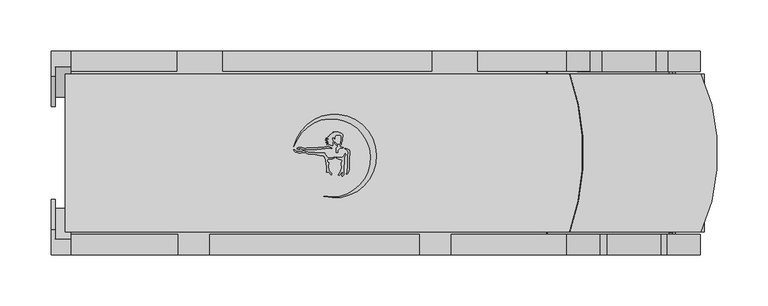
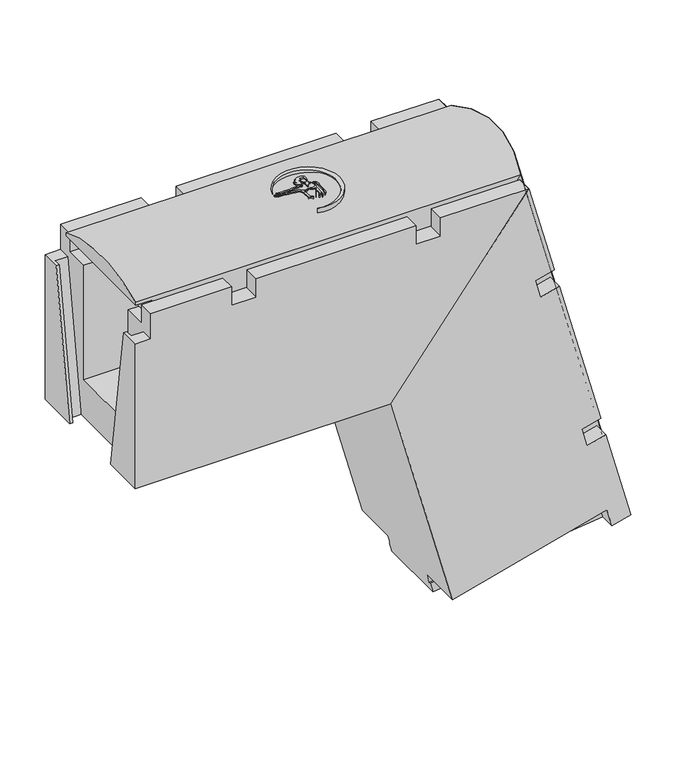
"""IFC4 building model written with IfcOpenShell, lengths in millimetres: cable carrier fitting geometry, Evotray type 1 vertical bend down : Evotray type 1 vertical bend down."""

from ifc_helpers import new_model, si_unit, point, frame, frame_2d, origin, place, context, project, spatial, polyline, circle_curve, ellipse_curve, trimmed, segment, composite_curve, outline, extrude, faceted_brep, source, transform, mapped, element, save
from ifc_brep_helpers import plane_surface, cylinder_surface, advanced_brep


def cable_carrier_fitting_f9ec4222(model_context):
    return source(origin(), model_context, "Body", "SolidModel", [
        extrude(outline(composite_curve([segment(polyline([(-100.1987673, 5.907559), (-98.7730763, 5.0844359), (-99.4820077, 4.6751342), (-102.0469375, 4.6751342), (-104.5064308, 2.2156409), (-104.5064308, 0.6319729), (-105.5639447, 0.3486129), (-105.8953119, 1.5852919), (-105.5730905, 2.7878385), (-105.5730905, 5.0146536), (-104.1065498, 6.4811943), (-104.5064308, 7.1738084), (-105.5730905, 7.7896447), (-106.4313624, 8.2851682), (-107.4244859, 9.2782918), (-107.4244859, 10.5283487), (-106.6366917, 10.0735155), (-105.5730905, 9.0099142), (-104.5064308, 8.394078), (-102.1936661, 8.394078), (-101.5617675, 9.0259766), (-101.5617675, 10.6343813), (-101.1559104, 11.3373462), (-100.9163405, 12.2314336), (-100.9163405, 16.3268685), (-101.5617675, 16.9722955), (-105.5730905, 17.3232408), (-106.3212546, 16.8912881), (-106.7531031, 16.1433045), (-106.9754965, 15.313321), (-107.2482129, 13.7666695), (-107.8042347, 14.3226912), (-108.3698905, 14.8883471), (-109.3304254, 14.8883471), (-109.8048648, 14.0665939), (-109.8048648, 13.2416885), (-109.4028177, 12.5453225), (-108.675123, 11.8176278), (-109.0717623, 10.3373496), (-109.4092623, 9.0777826), (-109.1064549, 7.3604762), (-109.907248, 7.2192748), (-111.6376932, 7.6829462), (-112.8844025, 8.2642963), (-113.6376597, 8.6155459), (-115.2371082, 8.33352), (-114.7695498, 9.1433549), (-113.1127288, 9.7463885)]), True, "CONTINUOUS"), segment(trimmed(circle_curve(frame_2d((-113.6788564, 9.4744491)), 0.6280537), [point((-113.1127288, 9.7463885))], [point((-113.8344386, 10.0829273))], True, "CARTESIAN"), True, "CONTINUOUS"), segment(polyline([(-113.8344386, 10.0829273), (-115.7814537, 10.0829273), (-115.2232755, 10.6411054), (-114.3724958, 10.9507639), (-113.5540563, 11.2486515)]), True, "CONTINUOUS"), segment(trimmed(circle_curve(frame_2d((-114.2923812, 11.2486515)), 0.7383249), [point((-113.5540563, 11.2486515))], [point((-114.2923812, 11.9869764))], True, "CARTESIAN"), True, "CONTINUOUS"), segment(polyline([(-114.2923812, 11.9869764), (-116.0001288, 11.9869764), (-116.3916504, 12.6651117), (-114.5730583, 12.9857785), (-113.2767203, 13.457607), (-113.897473, 14.0783597), (-115.8606925, 14.0783597), (-115.30811, 14.6309421), (-114.2782773, 15.2255163), (-113.603553, 15.9002407), (-112.8807357, 16.3175594), (-111.9057237, 16.8804829)]), True, "CONTINUOUS"), segment(trimmed(circle_curve(frame_2d((-112.1167091, 17.2459203)), 0.4219708), [point((-111.9057237, 16.8804829))], [point((-112.3276945, 17.6113577))], True, "CARTESIAN"), True, "CONTINUOUS"), segment(polyline([(-112.3276945, 17.6113577), (-111.7102978, 18.2287544), (-110.4076278, 18.7028875), (-109.4125713, 19.2773836), (-108.2810347, 19.4769041), (-108.6348604, 20.4490324), (-103.6348604, 20.4490324), (-102.6206866, 19.9761154), (-101.4988316, 19.6755153), (-100.4843855, 19.0898245), (-99.3757091, 17.9811481), (-99.3757091, 15.4151328), (-99.8646262, 14.5683035), (-99.8646262, 11.8362675), (-100.3536612, 10.7875287), (-100.760463, 10.0829273), (-100.760463, 8.2341629), (-101.5617675, 7.7715296), (-102.3950459, 7.6246001)]), True, "CONTINUOUS"), segment(trimmed(circle_curve(frame_2d((-101.3420944, 7.3424626)), 1.0900956), [point((-102.3950459, 7.6246001))], [point((-101.6242319, 6.2895111))], True, "CARTESIAN"), True, "CONTINUOUS"), segment(polyline([(-101.6242319, 6.2895111), (-100.1987673, 5.907559)]), True, "CONTINUOUS")], self_intersect=False)), frame((0.0, 0.0, 229.0645802), z_axis=(0.0, 0.0, 1.0), x_axis=(1.0, 0.0, 0.0)), (0.0, 0.0, 1.0), 22.5),
        extrude(outline(polyline([(-95.6420581, 3.0525563), (-97.5647021, 4.1625953), (-96.375462, 4.4812513), (-95.0006066, 3.9808448), (-92.8744575, 2.753312), (-92.462808, 1.2170154), (-92.462808, -1.5561738), (-92.8811889, -3.9289297), (-93.2073261, -13.2682758), (-93.2073261, -16.1231727), (-93.766974, -19.297094), (-94.9259981, -20.4561181), (-95.8234867, -20.4561181), (-95.1486125, -18.6019165), (-94.8396569, -16.8497423), (-94.3251997, -13.9321102), (-94.3251997, -2.6926455), (-93.883565, -0.1880111), (-94.4260419, 1.8365401), (-95.6420581, 3.0525563)])), frame((0.0, 0.0, 229.0645802), z_axis=(0.0, 0.0, 1.0), x_axis=(1.0, 0.0, 0.0)), (0.0, 0.0, 1.0), 22.5),
        extrude(outline(composite_curve([segment(polyline([(-103.070307, -4.5554644), (-101.0881056, -4.5554644), (-99.6198413, -4.2965698), (-98.3145593, -2.9912878), (-97.1344504, -0.4605362), (-96.6534984, -1.7819409), (-97.2762062, -3.117342), (-97.9468137, -4.5554644), (-97.9468137, -10.5136603), (-98.3751928, -12.943119), (-98.3751928, -21.4242609), (-99.8238515, -22.8729196), (-100.3965887, -22.3001824), (-99.7178687, -20.5578122), (-99.4597233, -19.0937972)]), True, "CONTINUOUS"), segment(trimmed(circle_curve(frame_2d((-99.8743713, -19.0937972)), 0.414648), [point((-99.4597233, -19.0937972))], [point((-100.2890194, -19.0937972))], True, "CARTESIAN"), True, "CONTINUOUS"), segment(polyline([(-100.2890194, -19.0937972), (-101.0547081, -19.8594859), (-102.3215546, -21.3692548), (-102.9770637, -22.0247639), (-103.7693849, -21.6552984), (-101.605165, -18.4467105), (-101.2992553, -16.7118106), (-100.4571975, -14.9060116), (-100.19999, -13.4473154), (-100.9884987, -12.0815782), (-100.9884987, -9.315031), (-99.6653502, -7.4454743)]), True, "CONTINUOUS"), segment(trimmed(circle_curve(frame_2d((-100.0024552, -7.2068937)), 0.4129897), [point((-99.6653502, -7.4454743))], [point((-100.2410358, -6.8697887))], True, "CARTESIAN"), True, "CONTINUOUS"), segment(polyline([(-100.2410358, -6.8697887), (-102.2448508, -6.516462), (-103.6887473, -5.843162), (-105.508748, -4.9944818), (-105.508748, -4.1255015), (-103.070307, -4.5554644)]), True, "CONTINUOUS")], self_intersect=False)), frame((0.0, 0.0, 229.0645802), z_axis=(0.0, 0.0, 1.0), x_axis=(1.0, 0.0, 0.0)), (0.0, 0.0, 1.0), 22.5),
        extrude(outline(composite_curve([segment(polyline([(-145.4819029, 2.2537302), (-143.7462291, 1.4443722), (-139.5597552, 1.4443722), (-138.4890341, 1.731271), (-137.1624965, 1.731271), (-135.4413877, 1.4443722), (-133.4350656, 0.9067798), (-132.2818775, 0.597784), (-126.5899708, 0.597784), (-123.9734749, 0.1616293), (-122.6459123, -0.19409), (-117.03167, -0.19409)]), True, "CONTINUOUS"), segment(trimmed(circle_curve(frame_2d((-108.1781038, 2.7115165)), 9.3181642), [point((-117.03167, -0.19409))], [point((-113.6774022, -4.8108435))], True, "CARTESIAN"), True, "CONTINUOUS"), segment(polyline([(-113.6774022, -4.8108435), (-110.6256174, -4.8108435), (-108.5910388, -4.632841), (-107.4520349, -4.1017147), (-107.7095548, -5.0627921), (-108.6536491, -5.6078652), (-109.612336, -5.9567987), (-112.847041, -5.8438403), (-114.0357356, -6.2764898), (-114.44473, -7.153581), (-114.3696494, -8.0117562), (-113.8907652, -8.8412079), (-113.1701597, -9.5618134), (-113.1701597, -11.3180259), (-113.53546, -12.3216801), (-113.3911934, -13.970655), (-112.8861011, -15.8556852), (-112.737982, -17.5486944), (-110.3666469, -20.2766033), (-110.5753239, -21.4600691), (-113.1701597, -18.8652332), (-114.1329913, -19.1232231), (-115.5361675, -18.8758053), (-115.2606072, -18.1187094), (-115.2606072, -15.8446539), (-115.0850033, -14.8487551), (-115.2606072, -12.8415943), (-115.6362696, -11.8094702), (-115.6362696, -9.9842873), (-116.0826053, -9.0271173), (-116.0826053, -6.6493678), (-116.3310455, -5.7221762), (-116.7830159, -4.9393406), (-117.2317276, -4.1621491), (-117.84617, -3.5477067), (-118.2800213, -2.6173096), (-121.8809595, -2.4915621), (-124.2251115, -2.1008055), (-126.2577048, -1.5561738), (-129.5993244, -1.2049554), (-131.6789374, -1.2049554), (-133.021172, -0.8453047), (-134.5447671, -0.4370587), (-135.8880204, 0.1893106), (-136.8824091, 0.1893106), (-139.5338495, 0.1893106), (-140.6460936, -0.1087143), (-142.5093755, 0.0871245), (-143.9984504, 0.3353447), (-145.6717579, 1.1156208), (-146.6476843, 2.0915471), (-147.2867674, 2.7306302), (-147.2867674, 3.5175099), (-145.4819029, 2.2537302)]), True, "CONTINUOUS")], self_intersect=False)), frame((0.0, 0.0, 229.0645802), z_axis=(0.0, 0.0, 1.0), x_axis=(1.0, 0.0, 0.0)), (0.0, 0.0, 1.0), 22.5),
        extrude(outline(composite_curve([segment(polyline([(-142.9796703, 3.7977023), (-141.956356, 3.2068915), (-143.6840165, 3.7265624), (-144.014163, 4.6441261), (-143.1758386, 5.4824506), (-140.30302, 5.4824506), (-139.318583, 5.0847122), (-138.2280942, 4.6441261), (-137.4299007, 4.1832889), (-136.1696706, 4.1832889), (-135.3486455, 4.4787), (-134.4633932, 4.9898007), (-128.0496883, 4.9898007), (-127.1941137, 4.6441261), (-126.1237116, 4.6441261), (-125.1629915, 4.9898007), (-123.9838348, 4.9898007), (-123.2654957, 5.4045339), (-117.8528405, 5.4045339), (-117.0925598, 5.6780888), (-115.8504018, 5.6780888), (-115.2746333, 6.2538574), (-113.3170698, 6.2538574), (-112.0290688, 5.7334711), (-111.0171524, 5.1492409), (-110.2127113, 4.8242256)]), True, "CONTINUOUS"), segment(trimmed(circle_curve(frame_2d((-110.6200436, 4.6596527)), 0.4393221), [point((-110.2127113, 4.8242256))], [point((-110.7846166, 4.2523203))], False, "CARTESIAN"), True, "CONTINUOUS"), segment(polyline([(-110.7846166, 4.2523203), (-111.8003453, 4.6627013), (-113.112003, 4.6627013), (-114.382433, 4.8867124), (-115.1944574, 4.5945398), (-116.3374314, 4.1832889), (-119.6816293, 4.1832889), (-120.4727027, 3.7265624), (-124.0400229, 3.7265624), (-124.9228853, 3.2168416), (-134.9228853, 3.2168416), (-137.5335493, 2.9884381), (-141.222077, 4.4787), (-143.3728446, 4.4787), (-142.9796703, 3.7977023)]), True, "CONTINUOUS")], self_intersect=False)), frame((0.0, 0.0, 229.0645802), z_axis=(0.0, 0.0, 1.0), x_axis=(1.0, 0.0, 0.0)), (0.0, 0.0, 1.0), 22.5),
        extrude(outline(composite_curve([segment(trimmed(circle_curve(frame_2d((-110.3994103, -4.8721323)), 38.3616107), [point((-117.8072471, -42.511701))], [point((-147.1109456, 6.2578432))], True, "CARTESIAN"), True, "CONTINUOUS"), segment(trimmed(circle_curve(frame_2d((-107.2700096, -2.9917986)), 40.900563), [point((-147.1109456, 6.2578432))], [point((-117.8072471, -42.511701))], False, "CARTESIAN"), True, "CONTINUOUS")], self_intersect=False)), frame((0.0, 0.0, 229.0645802), z_axis=(0.0, 0.0, 1.0), x_axis=(1.0, 0.0, 0.0)), (0.0, 0.0, 1.0), 22.5),
        advanced_brep(
        [(100.7029586, -77.5, 205.0), (226.4121345, -77.5, -264.1530316), (254.4007465, -77.5, -256.6535056), (251.2949179, -77.5, -245.0623957), (122.9554412, -77.5, 234.0), (226.4121345, 77.5, -264.1530316), (100.7029586, 77.5, 205.0), (122.9554412, 77.5, 234.0), (251.3181549, 77.5, -245.0561693), (254.4007465, 77.5, -256.6535056)],
        [
            (0, 1),
            (1, 2),
            (2, 3),
            (3, 4),
            (4, 0),
            (5, 6),
            (6, 7),
            (7, 8),
            (8, 9),
            (9, 5),
            (1, 5),
            (9, 2),
            (6, 0),
            (4, 7, ellipse_curve(frame((-6.3925459, 0.0, 65.4304213), z_axis=(-0.7933533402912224, 0.0, 0.6087614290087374), x_axis=(-0.6087614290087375, 0.0, -0.7933533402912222)), 233.8573898, 185.5315414)),
            (8, 3),
            (8, 3, circle_curve(frame((88.4924454, 0.0, -288.6851867), z_axis=(0.2588190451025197, 0.0, -0.9659258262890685), x_axis=(0.0, -1.0, 0.0)), 185.5315414)),
        ],
        [
            plane_surface(frame((226.4121345, -77.5, -264.1530316), z_axis=(0.0, -1.0, 0.0), x_axis=(0.9659258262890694, 0.0, 0.2588190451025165))),
            plane_surface(frame((226.4121345, 77.5, -264.1530316), z_axis=(0.0, 1.0, 0.0), x_axis=(-0.9659258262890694, 0.0, -0.2588190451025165))),
            plane_surface(frame((226.4121345, -77.5, -264.1530316), z_axis=(0.2588190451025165, 0.0, -0.9659258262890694), x_axis=(0.0, 1.0, 0.0))),
            plane_surface(frame((136.0, -77.5, 251.0), z_axis=(-0.7933533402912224, 0.0, 0.6087614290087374), x_axis=(0.0, 1.0, 0.0))),
            plane_surface(frame((100.7029586, -77.5, 205.0), z_axis=(-0.9659258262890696, 0.0, -0.2588190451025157), x_axis=(0.0, 1.0, 0.0))),
            plane_surface(frame((254.4007465, -77.5, -256.6535056), z_axis=(0.9659258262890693, 0.0, 0.2588190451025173), x_axis=(-0.2588190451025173, 0.0, 0.9659258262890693))),
            plane_surface(frame((251.2949179, -77.5, -245.0623957), z_axis=(0.25881904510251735, 0.0, -0.9659258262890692), x_axis=(0.9659258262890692, 0.0, 0.25881904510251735))),
            cylinder_surface(frame((-38.6786753, 0.0, 185.9238969), z_axis=(0.2588190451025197, 0.0, -0.9659258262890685), x_axis=(0.0, -1.0, 0.0)), 185.5315414),
        ],
        [
            (0, [[1, 2, 3, 4, 5]]),
            (1, [[6, 7, 8, 9, 10]]),
            (2, [[11, -10, 12, -2]]),
            (3, [[13, -5, 14, -7]]),
            (4, [[-1, -13, -6, -11]]),
            (5, [[15, -3, -12, -9]]),
            (6, [[-15, 16]]),
            (7, [[-4, -16, -8, -14]]),
        ],
    ),
        advanced_brep(
        [(-351.0, -77.5, 205.0), (100.7029586, -77.5, 205.0), (122.9554412, -77.5, 234.0), (-371.0, -77.5, 234.0), (-371.0, -77.5, 230.0), (-351.0, -77.5, 230.0), (100.7029586, 77.5, 205.0), (-351.0, 77.5, 205.0), (-351.0, 77.5, 230.0), (-371.0, 77.5, 230.0), (-371.0, 77.5, 234.0), (122.9554412, 77.5, 234.0)],
        [
            (0, 1),
            (1, 2),
            (2, 3),
            (3, 4),
            (4, 5),
            (5, 0),
            (6, 7),
            (7, 8),
            (8, 9),
            (9, 10),
            (10, 11),
            (11, 6),
            (9, 4),
            (3, 10, circle_curve(frame((-371.0, 0.0, 65.4304213), z_axis=(-1.0, 0.0, 0.0), x_axis=(0.0, -1.0, 0.0)), 185.5315414)),
            (6, 1),
            (0, 7),
            (11, 2, ellipse_curve(frame((-6.3925459, 0.0, 65.4304213), z_axis=(0.7933533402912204, 0.0, -0.6087614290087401), x_axis=(0.6087614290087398, 0.0, 0.7933533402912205)), 233.8573898, 185.5315414)),
            (8, 5),
        ],
        [
            plane_surface(frame((-371.0, -77.5, 205.0), z_axis=(0.0, -1.0, 0.0), x_axis=(0.0, 0.0, -1.0))),
            plane_surface(frame((-371.0, 77.5, 205.0), z_axis=(0.0, 1.0, 0.0), x_axis=(0.0, 0.0, 1.0))),
            plane_surface(frame((-371.0, -77.5, 251.0), z_axis=(-1.0, 0.0, 0.0), x_axis=(0.0, 1.0, 0.0))),
            plane_surface(frame((-371.0, -77.5, 205.0), z_axis=(0.0, 0.0, -1.0), x_axis=(0.0, 1.0, 0.0))),
            plane_surface(frame((100.7029586, -77.5, 205.0), z_axis=(0.7933533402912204, 0.0, -0.6087614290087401), x_axis=(0.0, 1.0, 0.0))),
            plane_surface(frame((-371.0, 77.5, 230.0), z_axis=(0.0, 0.0, -1.0), x_axis=(-1.0, 0.0, 0.0))),
            plane_surface(frame((-351.0, -77.5, 230.0), z_axis=(-1.0, 0.0, 0.0), x_axis=(0.0, 0.0, -1.0))),
            cylinder_surface(frame((-371.0, 0.0, 65.4304213), z_axis=(1.0, 0.0, 0.0), x_axis=(0.0, -1.0, 0.0)), 185.5315414),
        ],
        [
            (0, [[1, 2, 3, 4, 5, 6]]),
            (1, [[7, 8, 9, 10, 11, 12]]),
            (2, [[13, -4, 14, -10]]),
            (3, [[15, -1, 16, -7]]),
            (4, [[-15, -12, 17, -2]]),
            (5, [[18, -5, -13, -9]]),
            (6, [[-18, -8, -16, -6]]),
            (7, [[-3, -17, -11, -14]]),
        ],
    ),
        faceted_brep([(119.8861333, -100.0, 230.0), (-56.599074, -100.0, 0.0), (21.926864, -100.0, -293.0627902), (219.9416584, -100.0, -240.0048859), (226.4121345, -100.0, -264.1530316), (250.5602801, -100.0, -257.6825554), (218.4667186, -100.0, -137.907753), (194.3185729, -100.0, -144.3782291), (187.8480968, -100.0, -120.2300835), (211.9962424, -100.0, -113.7596073), (158.9383382, -100.0, 84.2551871), (134.7901925, -100.0, 77.7847109), (128.3197164, -100.0, 101.9328566), (152.4678621, -100.0, 108.4033327), (-56.599074, 100.0, 0.0), (119.8861333, 100.0, 230.0), (142.3739193, 100.0, 146.0744399), (118.2257736, 100.0, 139.6039638), (129.8726307, 100.0, 96.1373016), (154.0207763, 100.0, 102.6077778), (207.0786806, 100.0, -95.4070166), (182.9305349, 100.0, -101.8774928), (194.5773919, 100.0, -145.3441549), (218.7255376, 100.0, -138.8736788), (250.5602801, 100.0, -257.6825554), (226.4121345, 100.0, -264.1530316), (219.9416584, 100.0, -240.0048859), (21.926864, 100.0, -293.0627902), (226.4121345, -50.0, -264.1530316), (226.4121345, -80.0, -264.1530316), (28.3973401, -45.4, -317.2109358), (28.3973401, 45.4, -317.2109358), (226.4121345, 80.0, -264.1530316), (226.4121345, 50.0, -264.1530316), (76.6936314, 50.0, -304.2699836), (76.6936314, -50.0, -304.2699836), (250.5602801, -80.0, -257.6825554), (250.5602801, 80.0, -257.6825554), (211.9962424, -80.0, -113.7596073), (158.9383382, -80.0, 84.2551871), (154.0207763, 80.0, 102.6077778), (207.0786806, 80.0, -95.4070166), (218.4667186, -80.0, -137.907753), (218.7255376, 80.0, -138.8736788), (119.8861333, -80.0, 230.0), (152.4678621, -80.0, 108.4033327), (119.8861333, 80.0, 230.0), (142.3739193, 80.0, 146.0744399), (100.6522932, -80.0, 204.9339716), (100.7029586, -50.0, 205.0), (-18.2327246, -50.0, 50.0), (-18.2327246, 50.0, 50.0), (100.7029586, 50.0, 205.0), (100.7029586, 80.0, 205.0), (21.926864, 43.0, -293.0627902), (25.0326925, 43.0, -304.6539001), (25.0326925, 45.4, -304.6539001), (25.0326925, -45.4, -304.6539001), (25.0326925, -43.0, -304.6539001), (21.926864, -43.0, -293.0627902), (223.0474869, -80.0, -251.5959958), (219.9416584, -80.0, -240.0048859), (194.3185729, -80.0, -144.3782291), (187.8480968, -80.0, -120.2300835), (134.7901925, -80.0, 77.7847109), (128.3197164, -80.0, 101.9328566), (194.5773919, 80.0, -145.3441549), (219.9416584, 80.0, -240.0048859), (223.0474869, 80.0, -251.5959958), (129.8726307, 80.0, 96.1373016), (182.9305349, 80.0, -101.8774928), (118.2257736, 80.0, 139.6039638), (219.9416584, -77.6, -240.0048859), (223.0474869, -77.6, -251.5959958), (223.0474869, 77.6, -251.5959958), (219.9416584, 77.6, -240.0048859)], [[[0, 1, 2, 3, 4, 5, 6, 7, 8, 9, 10, 11, 12, 13]], [[14, 15, 16, 17, 18, 19, 20, 21, 22, 23, 24, 25, 26, 27]], [[28, 29, 30, 31, 32, 33, 34, 35]], [[36, 5, 4, 29]], [[24, 37, 32, 25]], [[10, 9, 38, 39]], [[20, 19, 40, 41]], [[5, 36, 42, 6]], [[37, 24, 23, 43]], [[44, 0, 13, 45]], [[15, 46, 47, 16]], [[1, 0, 44, 48, 49, 50, 51, 52, 53, 46, 15, 14]], [[1, 14, 27, 54, 55, 56, 31, 30, 57, 58, 59, 2]], [[36, 29, 60, 61, 62, 42]], [[39, 38, 63, 64]], [[48, 44, 45, 65]], [[32, 37, 43, 66, 67, 68]], [[41, 40, 69, 70]], [[46, 53, 71, 47]], [[49, 48, 65, 12, 11, 64, 63, 8, 7, 62, 61, 72, 73, 60, 29, 28]], [[53, 52, 33, 32, 68, 74, 75, 67, 66, 22, 21, 70, 69, 18, 17, 71]], [[35, 50, 49, 28]], [[51, 34, 33, 52]], [[50, 35, 34, 51]], [[60, 29, 4, 3, 61]], [[29, 60, 57, 30]], [[32, 68, 67, 26, 25]], [[68, 32, 31, 56]], [[58, 73, 72, 59]], [[59, 72, 61, 3, 2]], [[73, 58, 57, 60]], [[54, 75, 74, 55]], [[75, 54, 27, 26, 67]], [[55, 74, 68, 56]], [[70, 21, 20, 41]], [[22, 66, 43, 23]], [[62, 7, 6, 42]], [[8, 63, 38, 9]], [[71, 17, 16, 47]], [[18, 69, 40, 19]], [[64, 11, 10, 39]], [[12, 65, 45, 13]]]),
        faceted_brep([(-385.0, -100.0, 0.0), (-56.599074, -100.0, 0.0), (119.8861333, -100.0, 230.0), (6.6963481, -100.0, 230.0), (6.6963481, -100.0, 205.0), (-24.6518259, -100.0, 205.0), (-24.6518259, -100.0, 230.0), (-229.6518259, -100.0, 230.0), (-229.6518259, -100.0, 205.0), (-261.0, -100.0, 205.0), (-261.0, -100.0, 230.0), (-365.0130369, -100.0, 230.0), (-365.0130369, -100.0, 196.0), (-385.0, -100.0, 196.0), (119.8861333, 100.0, 230.0), (-56.599074, 100.0, 0.0), (-385.0, 100.0, 0.0), (-385.0, 100.0, 196.0), (-365.0130369, 100.0, 196.0), (-365.0130369, 100.0, 230.0), (-262.0, 100.0, 230.0), (-262.0, 100.0, 205.0), (-217.0, 100.0, 205.0), (-217.0, 100.0, 230.0), (-12.0, 100.0, 230.0), (-12.0, 100.0, 205.0), (33.0, 100.0, 205.0), (33.0, 100.0, 230.0), (-24.6518259, -80.0, 230.0), (-229.6518259, -80.0, 230.0), (-217.0, 80.0, 230.0), (-12.0, 80.0, 230.0), (119.8861333, -80.0, 230.0), (6.6963481, -80.0, 230.0), (119.8861333, 80.0, 230.0), (33.0, 80.0, 230.0), (-365.0130369, -80.0, 230.0), (-261.0, -80.0, 230.0), (-365.0130369, 80.0, 230.0), (-262.0, 80.0, 230.0), (-385.0, -45.45, 0.0), (-385.0, -74.8926087, 196.0), (-385.0, 45.45, 0.0), (-385.0, 74.8926087, 196.0), (-381.0, -45.45, 0.0), (-381.0, -54.6, 0.0), (-365.0, -54.6, 0.0), (-365.0, 54.6, 0.0), (-381.0, 54.6, 0.0), (-381.0, 45.45, 0.0), (100.7029586, 80.0, 205.0), (100.7029586, 50.0, 205.0), (-18.2327246, 50.0, 50.0), (-18.2327246, -50.0, 50.0), (100.7029586, -50.0, 205.0), (100.7029586, -80.0, 205.0), (-381.0, 74.8926087, 196.0), (-381.0, -74.8926087, 196.0), (-365.0, 84.0426087, 196.0), (-381.0, 84.0426087, 196.0), (-381.0, -84.0426087, 196.0), (-365.0, -84.0426087, 196.0), (-365.0, -80.0, 205.0), (-365.0, -77.5, 205.0), (-365.0, -50.0, 205.0), (-365.0, -50.0, 50.0), (-365.0, 50.0, 50.0), (-365.0, 50.0, 205.0), (-365.0, 77.5, 205.0), (-365.0, 80.0, 205.0), (-24.6518259, -80.0, 205.0), (-229.6518259, -80.0, 205.0), (6.6963481, -80.0, 205.0), (-261.0, -80.0, 205.0), (-217.0, 80.0, 205.0), (-12.0, 80.0, 205.0), (33.0, 80.0, 205.0), (-262.0, 80.0, 205.0), (-351.0, 50.0, 205.0), (-351.0, -50.0, 205.0)], [[[0, 1, 2, 3, 4, 5, 6, 7, 8, 9, 10, 11, 12, 13]], [[14, 15, 16, 17, 18, 19, 20, 21, 22, 23, 24, 25, 26, 27]], [[7, 6, 28, 29]], [[24, 23, 30, 31]], [[2, 32, 33, 3]], [[34, 14, 27, 35]], [[36, 11, 10, 37]], [[19, 38, 39, 20]], [[40, 0, 13, 41]], [[16, 42, 43, 17]], [[1, 0, 40, 44, 45, 46, 47, 48, 49, 42, 16, 15]], [[2, 1, 15, 14, 34, 50, 51, 52, 53, 54, 55, 32]], [[42, 49, 56, 43]], [[44, 40, 41, 57]], [[48, 47, 58, 59]], [[45, 44, 57, 60]], [[49, 48, 59, 56]], [[46, 45, 60, 61]], [[47, 46, 61, 12, 11, 36, 62, 63, 64, 65, 66, 67, 68, 69, 38, 19, 18, 58]], [[12, 61, 60, 57, 41, 13]], [[58, 18, 17, 43, 56, 59]], [[29, 28, 70, 71]], [[32, 55, 72, 33]], [[62, 36, 37, 73]], [[31, 30, 74, 75]], [[50, 34, 35, 76]], [[38, 69, 77, 39]], [[51, 50, 76, 26, 25, 75, 74, 22, 21, 77, 69, 68, 67, 78]], [[55, 54, 79, 64, 63, 62, 73, 9, 8, 71, 70, 5, 4, 72]], [[53, 65, 64, 79, 54]], [[66, 52, 51, 78, 67]], [[65, 53, 52, 66]], [[77, 21, 20, 39]], [[22, 74, 30, 23]], [[9, 73, 37, 10]], [[71, 8, 7, 29]], [[75, 25, 24, 31]], [[26, 76, 35, 27]], [[5, 70, 28, 6]], [[72, 4, 3, 33]]]),
    ])


if __name__ == "__main__":
    model = new_model("IFC4")
    model_context = context("Model", 3, world=origin())
    ifc_project = project(units=[si_unit("LENGTHUNIT", "METRE", prefix="MILLI")], contexts=[model_context])
    site = spatial("IfcSite", under=ifc_project)
    building = spatial("IfcBuilding", under=site)
    placement = place(None, origin())
    cable_carrier_fitting_shape = cable_carrier_fitting_f9ec4222(model_context)
    element("IfcCableCarrierFitting", 1, ObjectType="Evotray type 1 vertical bend down : Evotray type 1 vertical bend down", at=placement, inside=building, context=model_context, shape_type="MappedRepresentation", body=[
        mapped(cable_carrier_fitting_shape, transform((0.0, 0.0, 0.0), x_axis=(1.0, 0.0, 0.0), y_axis=(0.0, 1.0, 0.0), z_axis=(0.0, 0.0, 1.0))),
    ])
    save(model, "model.ifc")
